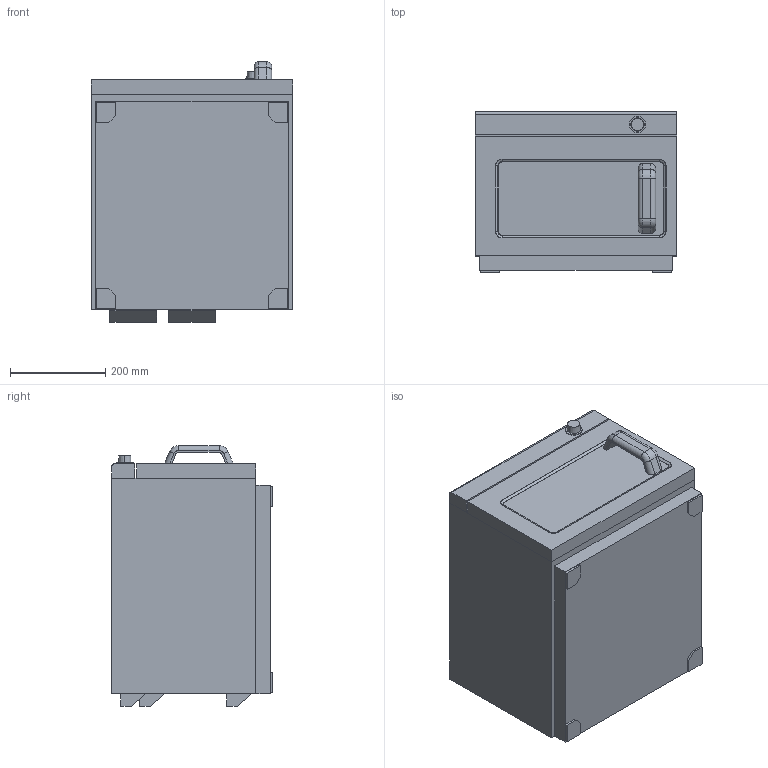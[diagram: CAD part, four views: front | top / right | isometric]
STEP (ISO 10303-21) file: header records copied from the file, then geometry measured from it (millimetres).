
FILE_DESCRIPTION (( 'STEP AP203' ), '1' );
FILE_NAME ('NE-1843.STEP', '2018-11-07T04:01:38', ( 'Scan-LaptopPC' ), ( 'HP' ), 'SwSTEP 2.0', 'SolidWorks 2013', '' );
FILE_SCHEMA (( 'CONFIG_CONTROL_DESIGN' ));
Length unit declared in the file: millimetre
Products named in the file (1): NE-1843
Bounding box: 422 x 337 x 546 mm (x, y, z)
Volume: 67012513.5 mm3; surface area: 1064650 mm2
Topology: 1 solids, 1 shells, 116 faces, 280 edges, 176 vertices
Faces by surface type: plane 77, cylinder 21, torus 12, cone 6
Entity records: 3411 total; most frequent: CARTESIAN_POINT 585, DIRECTION 572, ORIENTED_EDGE 560, EDGE_CURVE 280, LINE 214, VECTOR 214, AXIS2_PLACEMENT_3D 179, VERTEX_POINT 176
